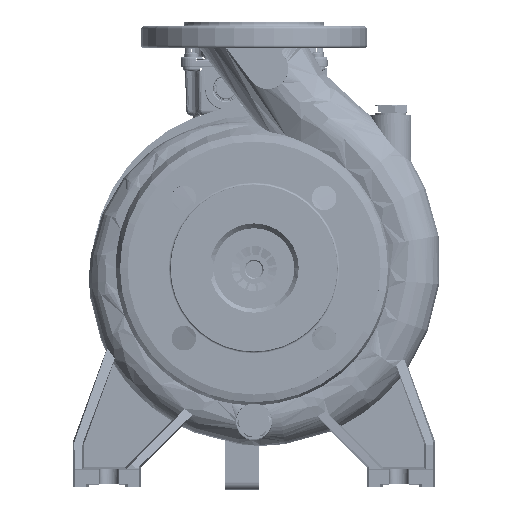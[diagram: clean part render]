
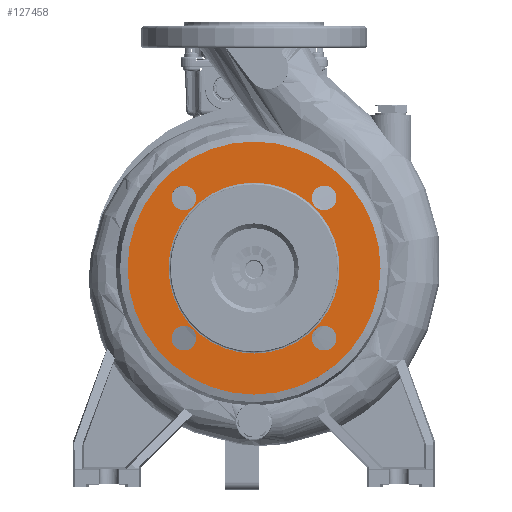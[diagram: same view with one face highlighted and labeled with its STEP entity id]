
A CAD part, top view. The second image highlights one B-rep face of the part: STEP entity #127458.
In plain terms, the highlighted planar face has unit normal (0, 0, 1).
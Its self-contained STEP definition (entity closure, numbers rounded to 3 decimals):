
#2375 = DIRECTION ( 'NONE',  ( 0., 0., 1. ) ) ;
#3579 = VERTEX_POINT ( 'NONE', #255568 ) ;
#4988 = CIRCLE ( 'NONE', #198583, 9. ) ;
#6969 = CARTESIAN_POINT ( 'NONE',  ( 51.265, 51.265, 97. ) ) ;
#12376 = PLANE ( 'NONE',  #179672 ) ;
#14529 = CIRCLE ( 'NONE', #158254, 9. ) ;
#15758 = DIRECTION ( 'NONE',  ( 0., 0., 1. ) ) ;
#16220 = CARTESIAN_POINT ( 'NONE',  ( 51.265, -51.265, 97. ) ) ;
#19260 = DIRECTION ( 'NONE',  ( 1., 0., 0. ) ) ;
#20604 = EDGE_CURVE ( 'NONE', #276033, #300343, #173803, .T. ) ;
#21380 = VERTEX_POINT ( 'NONE', #230837 ) ;
#26867 = DIRECTION ( 'NONE',  ( 0., 0., 1. ) ) ;
#30039 = VERTEX_POINT ( 'NONE', #157798 ) ;
#31181 = DIRECTION ( 'NONE',  ( 1., 0., 0. ) ) ;
#35786 = EDGE_CURVE ( 'NONE', #147347, #187887, #4988, .T. ) ;
#47922 = CIRCLE ( 'NONE', #246326, 9. ) ;
#48529 = DIRECTION ( 'NONE',  ( 1., 0., 0. ) ) ;
#53459 = EDGE_LOOP ( 'NONE', ( #292952, #216826 ) ) ;
#54200 = DIRECTION ( 'NONE',  ( 0., 0., -1. ) ) ;
#55100 = DIRECTION ( 'NONE',  ( 1., 0., 0. ) ) ;
#60855 = CIRCLE ( 'NONE', #219612, 9. ) ;
#73477 = CARTESIAN_POINT ( 'NONE',  ( 51.265, -51.265, 97. ) ) ;
#74112 = DIRECTION ( 'NONE',  ( 0., 0., 1. ) ) ;
#76101 = CIRCLE ( 'NONE', #289332, 9. ) ;
#76400 = EDGE_CURVE ( 'NONE', #247124, #30039, #190171, .T. ) ;
#81555 = EDGE_CURVE ( 'NONE', #139724, #259865, #47922, .T. ) ;
#84382 = ORIENTED_EDGE ( 'NONE', *, *, #289168, .T. ) ;
#87388 = AXIS2_PLACEMENT_3D ( 'NONE', #268740, #122894, #31181 ) ;
#90674 = DIRECTION ( 'NONE',  ( 1., 0., 0. ) ) ;
#95342 = AXIS2_PLACEMENT_3D ( 'NONE', #6969, #2375, #55100 ) ;
#97500 = ORIENTED_EDGE ( 'NONE', *, *, #303806, .T. ) ;
#102255 = CIRCLE ( 'NONE', #87388, 9. ) ;
#104107 = DIRECTION ( 'NONE',  ( 0., 0., 1. ) ) ;
#108673 = FACE_BOUND ( 'NONE', #148433, .T. ) ;
#112840 = DIRECTION ( 'NONE',  ( 1., 0., 0. ) ) ;
#114207 = CARTESIAN_POINT ( 'NONE',  ( 0., 0., 97. ) ) ;
#116440 = EDGE_LOOP ( 'NONE', ( #297132, #153324 ) ) ;
#121424 = CARTESIAN_POINT ( 'NONE',  ( 60.265, -51.265, 97. ) ) ;
#122894 = DIRECTION ( 'NONE',  ( 0., 0., 1. ) ) ;
#125687 = CARTESIAN_POINT ( 'NONE',  ( 0., 0., 97. ) ) ;
#127439 = FACE_BOUND ( 'NONE', #116440, .T. ) ;
#127458 = ADVANCED_FACE ( 'NONE', ( #127439, #108673, #270220, #292023, #226694, #174026 ), #12376, .T. ) ;
#128440 = ORIENTED_EDGE ( 'NONE', *, *, #20604, .F. ) ;
#130488 = DIRECTION ( 'NONE',  ( 1., 0., 0. ) ) ;
#135366 = EDGE_CURVE ( 'NONE', #187887, #147347, #60855, .T. ) ;
#135785 = CARTESIAN_POINT ( 'NONE',  ( 62.5, 0., 97. ) ) ;
#135807 = DIRECTION ( 'NONE',  ( 0., 0., 1. ) ) ;
#139724 = VERTEX_POINT ( 'NONE', #202848 ) ;
#142174 = EDGE_CURVE ( 'NONE', #259865, #139724, #76101, .T. ) ;
#146144 = DIRECTION ( 'NONE',  ( -1., 0., 0. ) ) ;
#147347 = VERTEX_POINT ( 'NONE', #281189 ) ;
#148433 = EDGE_LOOP ( 'NONE', ( #297154, #128440 ) ) ;
#153324 = ORIENTED_EDGE ( 'NONE', *, *, #81555, .F. ) ;
#155348 = CARTESIAN_POINT ( 'NONE',  ( 0., 62.5, 97. ) ) ;
#157798 = CARTESIAN_POINT ( 'NONE',  ( -62.5, 0., 97. ) ) ;
#158254 = AXIS2_PLACEMENT_3D ( 'NONE', #189888, #261252, #48529 ) ;
#165122 = EDGE_LOOP ( 'NONE', ( #202778, #271557 ) ) ;
#167330 = CARTESIAN_POINT ( 'NONE',  ( -51.265, 51.265, 97. ) ) ;
#173803 = CIRCLE ( 'NONE', #193733, 9. ) ;
#174026 = FACE_OUTER_BOUND ( 'NONE', #228655, .T. ) ;
#175520 = CARTESIAN_POINT ( 'NONE',  ( 0., 0., 97. ) ) ;
#179672 = AXIS2_PLACEMENT_3D ( 'NONE', #155348, #104107, #130488 ) ;
#182588 = DIRECTION ( 'NONE',  ( 0., 0., 1. ) ) ;
#185127 = EDGE_CURVE ( 'NONE', #30039, #247124, #259596, .T. ) ;
#187887 = VERTEX_POINT ( 'NONE', #121424 ) ;
#189888 = CARTESIAN_POINT ( 'NONE',  ( -51.265, -51.265, 97. ) ) ;
#190171 = CIRCLE ( 'NONE', #239799, 62.5 ) ;
#193733 = AXIS2_PLACEMENT_3D ( 'NONE', #303020, #15758, #276641 ) ;
#195390 = AXIS2_PLACEMENT_3D ( 'NONE', #114207, #182588, #202831 ) ;
#195668 = CARTESIAN_POINT ( 'NONE',  ( -42.265, -51.265, 97. ) ) ;
#198583 = AXIS2_PLACEMENT_3D ( 'NONE', #73477, #26867, #90674 ) ;
#202778 = ORIENTED_EDGE ( 'NONE', *, *, #204883, .F. ) ;
#202831 = DIRECTION ( 'NONE',  ( 1., 0., 0. ) ) ;
#202848 = CARTESIAN_POINT ( 'NONE',  ( -60.265, 51.265, 97. ) ) ;
#204845 = ORIENTED_EDGE ( 'NONE', *, *, #185127, .T. ) ;
#204883 = EDGE_CURVE ( 'NONE', #231913, #224861, #229188, .T. ) ;
#210006 = AXIS2_PLACEMENT_3D ( 'NONE', #125687, #54200, #293312 ) ;
#216826 = ORIENTED_EDGE ( 'NONE', *, *, #35786, .F. ) ;
#219612 = AXIS2_PLACEMENT_3D ( 'NONE', #16220, #281694, #19260 ) ;
#223779 = CARTESIAN_POINT ( 'NONE',  ( 60.265, 51.265, 97. ) ) ;
#224861 = VERTEX_POINT ( 'NONE', #225978 ) ;
#225978 = CARTESIAN_POINT ( 'NONE',  ( 42.265, 51.265, 97. ) ) ;
#226694 = FACE_BOUND ( 'NONE', #292324, .T. ) ;
#228655 = EDGE_LOOP ( 'NONE', ( #84382, #97500 ) ) ;
#229188 = CIRCLE ( 'NONE', #95342, 9. ) ;
#230837 = CARTESIAN_POINT ( 'NONE',  ( -92.5, 0., 97. ) ) ;
#231913 = VERTEX_POINT ( 'NONE', #223779 ) ;
#239799 = AXIS2_PLACEMENT_3D ( 'NONE', #175520, #291984, #146144 ) ;
#241080 = CARTESIAN_POINT ( 'NONE',  ( -42.265, 51.265, 97. ) ) ;
#246326 = AXIS2_PLACEMENT_3D ( 'NONE', #167330, #74112, #261988 ) ;
#247124 = VERTEX_POINT ( 'NONE', #135785 ) ;
#252592 = CARTESIAN_POINT ( 'NONE',  ( 0., 0., 97. ) ) ;
#253764 = CARTESIAN_POINT ( 'NONE',  ( -51.265, 51.265, 97. ) ) ;
#255568 = CARTESIAN_POINT ( 'NONE',  ( 92.5, 0., 97. ) ) ;
#259596 = CIRCLE ( 'NONE', #210006, 62.5 ) ;
#259865 = VERTEX_POINT ( 'NONE', #241080 ) ;
#261252 = DIRECTION ( 'NONE',  ( 0., 0., 1. ) ) ;
#261988 = DIRECTION ( 'NONE',  ( 1., 0., 0. ) ) ;
#266077 = CARTESIAN_POINT ( 'NONE',  ( -60.265, -51.265, 97. ) ) ;
#268740 = CARTESIAN_POINT ( 'NONE',  ( 51.265, 51.265, 97. ) ) ;
#270220 = FACE_BOUND ( 'NONE', #53459, .T. ) ;
#271557 = ORIENTED_EDGE ( 'NONE', *, *, #293645, .F. ) ;
#272336 = CIRCLE ( 'NONE', #277444, 92.5 ) ;
#274366 = DIRECTION ( 'NONE',  ( 0., 0., 1. ) ) ;
#276033 = VERTEX_POINT ( 'NONE', #266077 ) ;
#276641 = DIRECTION ( 'NONE',  ( 1., 0., 0. ) ) ;
#277444 = AXIS2_PLACEMENT_3D ( 'NONE', #252592, #274366, #112840 ) ;
#278592 = DIRECTION ( 'NONE',  ( 1., 0., 0. ) ) ;
#281189 = CARTESIAN_POINT ( 'NONE',  ( 42.265, -51.265, 97. ) ) ;
#281694 = DIRECTION ( 'NONE',  ( 0., 0., 1. ) ) ;
#284434 = CIRCLE ( 'NONE', #195390, 92.5 ) ;
#289168 = EDGE_CURVE ( 'NONE', #3579, #21380, #284434, .T. ) ;
#289332 = AXIS2_PLACEMENT_3D ( 'NONE', #253764, #135807, #278592 ) ;
#291984 = DIRECTION ( 'NONE',  ( 0., 0., -1. ) ) ;
#292023 = FACE_BOUND ( 'NONE', #165122, .T. ) ;
#292324 = EDGE_LOOP ( 'NONE', ( #204845, #298497 ) ) ;
#292952 = ORIENTED_EDGE ( 'NONE', *, *, #135366, .F. ) ;
#293312 = DIRECTION ( 'NONE',  ( -1., 0., 0. ) ) ;
#293645 = EDGE_CURVE ( 'NONE', #224861, #231913, #102255, .T. ) ;
#297132 = ORIENTED_EDGE ( 'NONE', *, *, #142174, .F. ) ;
#297154 = ORIENTED_EDGE ( 'NONE', *, *, #303381, .F. ) ;
#298497 = ORIENTED_EDGE ( 'NONE', *, *, #76400, .T. ) ;
#300343 = VERTEX_POINT ( 'NONE', #195668 ) ;
#303020 = CARTESIAN_POINT ( 'NONE',  ( -51.265, -51.265, 97. ) ) ;
#303381 = EDGE_CURVE ( 'NONE', #300343, #276033, #14529, .T. ) ;
#303806 = EDGE_CURVE ( 'NONE', #21380, #3579, #272336, .T. ) ;
